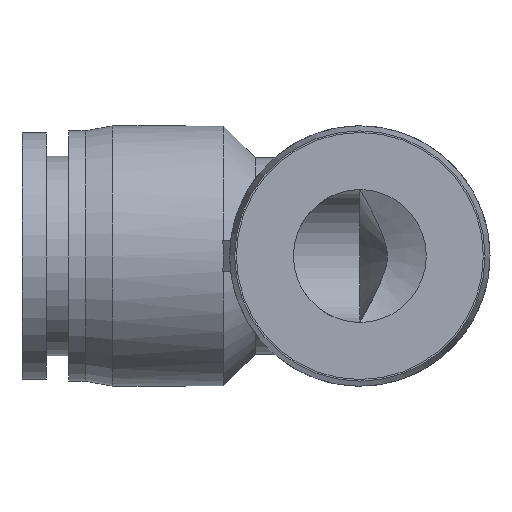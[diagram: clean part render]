
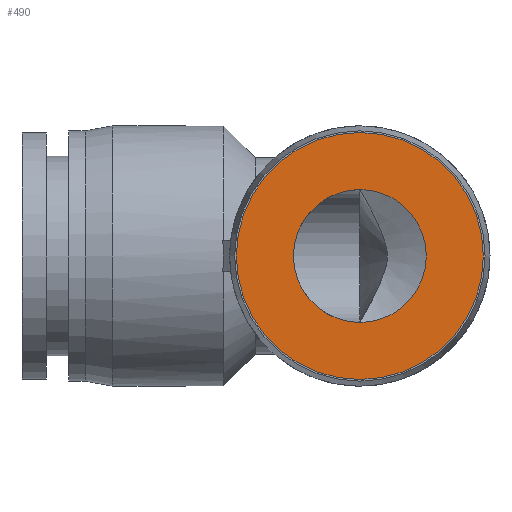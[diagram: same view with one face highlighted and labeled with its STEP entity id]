
A CAD part, front view. The second image highlights one B-rep face of the part: STEP entity #490.
In plain terms, the highlighted planar face has unit normal (0, -1, 0).
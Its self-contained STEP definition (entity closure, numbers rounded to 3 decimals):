
#386=CARTESIAN_POINT('',(-6.,-30.5,0.));
#387=VERTEX_POINT('',#386);
#388=CARTESIAN_POINT('',(0.0,-30.5,0.0));
#389=DIRECTION('',(0.0,1.0,0.0));
#390=DIRECTION('',(1.0,0.0,0.0));
#391=AXIS2_PLACEMENT_3D('',#388,#389,#390);
#392=CIRCLE('',#391,6.);
#393=EDGE_CURVE('',#387,#387,#392,.T.);
#471=CARTESIAN_POINT('',(-5.575,-30.5,0.0));
#472=DIRECTION('',(0.0,-1.0,0.0));
#473=DIRECTION('',(0.0,0.0,1.0));
#474=AXIS2_PLACEMENT_3D('',#471,#472,#473);
#475=PLANE('',#474);
#476=CARTESIAN_POINT('',(-11.15,-30.5,0.0));
#477=VERTEX_POINT('',#476);
#478=CARTESIAN_POINT('',(0.,-30.5,0.0));
#479=DIRECTION('',(0.0,1.0,0.0));
#480=DIRECTION('',(-1.0,0.0,0.0));
#481=AXIS2_PLACEMENT_3D('',#478,#479,#480);
#482=CIRCLE('',#481,11.15);
#483=EDGE_CURVE('',#477,#477,#482,.T.);
#484=ORIENTED_EDGE('',*,*,#483,.F.);
#485=EDGE_LOOP('',(#484));
#486=FACE_OUTER_BOUND('',#485,.T.);
#487=ORIENTED_EDGE('',*,*,#393,.T.);
#488=EDGE_LOOP('',(#487));
#489=FACE_BOUND('',#488,.T.);
#490=ADVANCED_FACE('',(#486,#489),#475,.T.);
